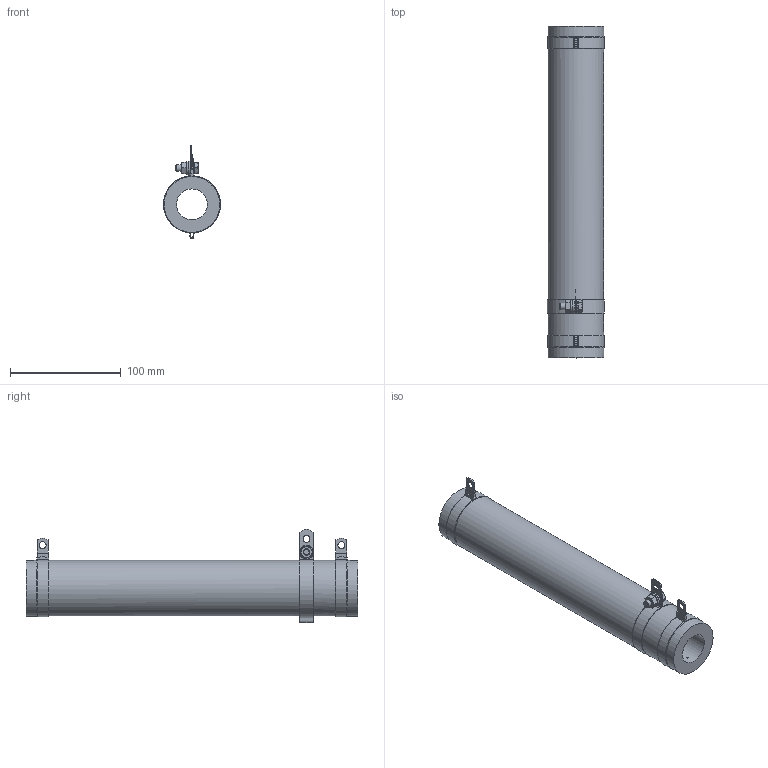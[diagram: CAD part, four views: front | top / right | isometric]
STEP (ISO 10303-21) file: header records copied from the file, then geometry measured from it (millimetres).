
FILE_DESCRIPTION(/* description */ (''),/* implementation_level */ '2;1');
FILE_NAME(/* name */ 'C:\_Vault\Dati\CATALOGO\RCA-RSA\R 25-1000\3D\RCAR 500.stp',/* time_stamp */ '2014-03-18T17:11:37+01:00',/* author */ ('stefano'),/* organization */ (''),/* preprocessor_version */ 'ST-DEVELOPER v15.2',/* originating_system */ 'Autodesk Inventor 2014',/* authorisation */ '');
FILE_SCHEMA (('AUTOMOTIVE_DESIGN { 1 0 10303 214 3 1 1 }'));
Length unit declared in the file: millimetre
Products named in the file (1): RCAR 500
Bounding box: 51.53 x 300 x 84.08 mm (x, y, z)
Volume: 420752.5 mm3; surface area: 81143 mm2
Topology: 1 solids, 1 shells, 767 faces, 1849 edges, 1216 vertices
Faces by surface type: plane 559, cylinder 172, cone 20, torus 12, bspline 4
Full cylindrical faces by diameter (mm): 3.2 x1, 6 x2, 6.2 x3, 6.3 x2, 6.4 x1, 8.88 x1, 12 x1, 12.5 x1, 28 x1, 50.5 x3
Entity records: 23320 total; most frequent: CARTESIAN_POINT 4178, DIRECTION 3922, ORIENTED_EDGE 3642, EDGE_CURVE 1821, AXIS2_PLACEMENT_3D 1397, VERTEX_POINT 1207, LINE 1128, VECTOR 1128
